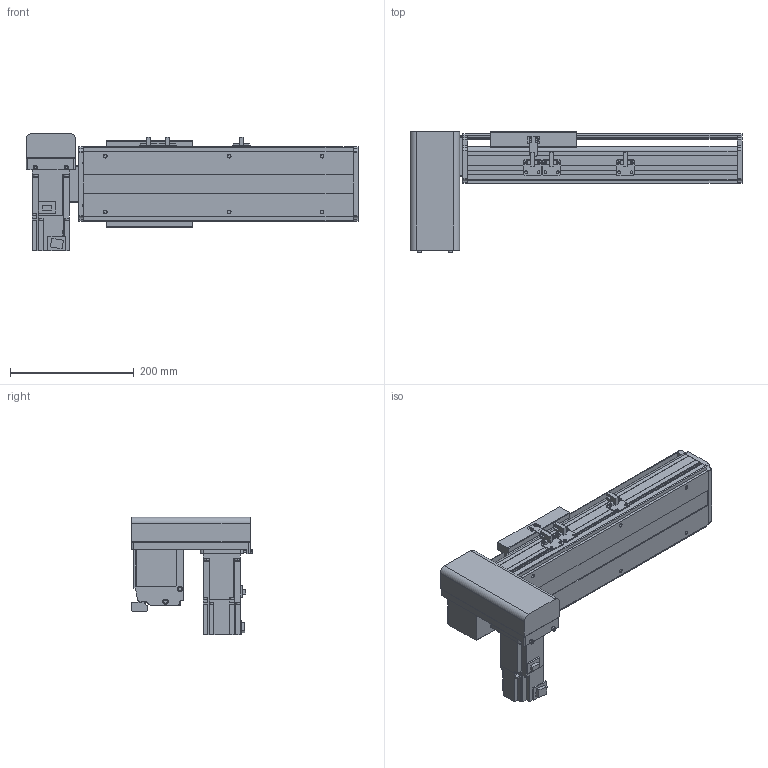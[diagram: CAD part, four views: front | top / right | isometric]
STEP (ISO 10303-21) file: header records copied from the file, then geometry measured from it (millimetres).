
FILE_DESCRIPTION( ( 'STEP AP214' ), '1' );
FILE_NAME( 'x:/temp/worker_27/temp/exporttempdir_6708_171_3SxGk/format_0/PBS120-P40-S150-RD-T40-C1-N(0).stp', '2022-06-06T00:40:23', ( 'License CC BY-ND 4.0' ), ( 'CADENAS' ), ' ', 'PARTsolutions', ' ' );
FILE_SCHEMA( ( 'AUTOMOTIVE_DESIGN { 1 0 10303 214 1 1 1 1 }' ) );
Length unit declared in the file: millimetre
Products named in the file (7): PBS120-P40-S150-RD-T40-C1-N(0); _PBS120-S150()_body; _PBS120T-RD_motors; _T40-p1; _PBS120_sliser; _PBS120_plant; _PBS120_sensor
Assembly tree (8 placements, depth 2):
  PBS120-P40-S150-RD-T40-C1-N(0)
    _PBS120-S150()_body
    _PBS120T-RD_motors
    _T40-p1
    _PBS120_sliser
    _PBS120_plant
    _PBS120_sensor  x3
Bounding box: 536 x 196 x 189.7 mm (x, y, z)
Volume: 3194587.3 mm3; surface area: 553299.2 mm2
Topology: 8 solids, 8 shells, 798 faces, 2106 edges, 1357 vertices
Faces by surface type: plane 539, cylinder 219, cone 38, torus 2
Full cylindrical faces by diameter (mm): 2.459 x6, 3.242 x4, 4 x2, 4.134 x4, 4.5 x10, 4.917 x10, 5.5 x11, 6 x2, 6.6 x1, 7 x2, 8.5 x4, 9 x4, 12 x1, 14 x1, 30 x2, 40 x1, 50 x2
Entity records: 26484 total; most frequent: DIRECTION 3620, CARTESIAN_POINT 3587, ORIENTED_EDGE 3442, EDGE_CURVE 1721, LINE 1228, VECTOR 1228, AXIS2_PLACEMENT_3D 1196, VERTEX_POINT 1163
